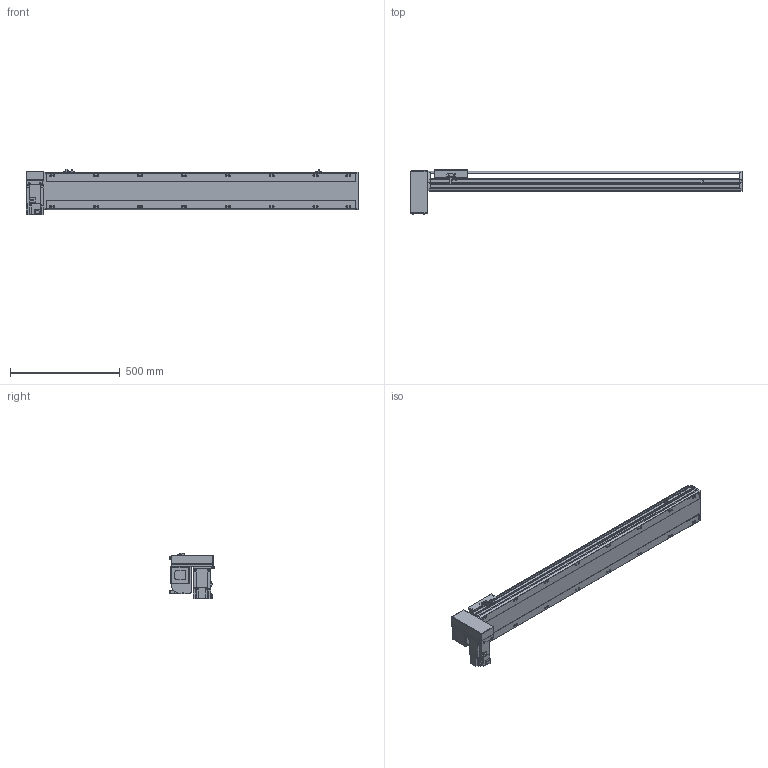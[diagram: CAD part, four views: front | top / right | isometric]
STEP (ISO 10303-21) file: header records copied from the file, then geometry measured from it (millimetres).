
FILE_DESCRIPTION( ( 'STEP AP214' ), '1' );
FILE_NAME( 'x:/temp/worker_5/temp/exporttempdir_3988_31_u76VU/format_0/PBS170-P40-S1150-RD-T75-C1-N(0).stp', '2022-06-08T05:35:45', ( 'License CC BY-ND 4.0' ), ( 'CADENAS' ), ' ', 'PARTsolutions', ' ' );
FILE_SCHEMA( ( 'AUTOMOTIVE_DESIGN { 1 0 10303 214 1 1 1 1 }' ) );
Length unit declared in the file: millimetre
Products named in the file (7): PBS170-P40-S1150-RD-T75-C1-N(0); _PBS170-S1150()_body; _PBS170T-RD_motors; _T75-p1; _PBS170_sliser; _PBS170_plant; _PBS170_sensor
Assembly tree (8 placements, depth 2):
  PBS170-P40-S1150-RD-T75-C1-N(0)
    _PBS170-S1150()_body
    _PBS170T-RD_motors
    _T75-p1
    _PBS170_sliser
    _PBS170_plant
    _PBS170_sensor  x3
Bounding box: 1513 x 201 x 205.3 mm (x, y, z)
Volume: 12059799.7 mm3; surface area: 1568894.4 mm2
Topology: 8 solids, 8 shells, 1082 faces, 2875 edges, 1874 vertices
Faces by surface type: plane 687, cylinder 339, cone 46, sphere 8, torus 2
Full cylindrical faces by diameter (mm): 3.242 x4, 4 x2, 4.4 x4, 4.5 x6, 4.917 x4, 6 x9, 6.647 x24, 7 x2, 7.5 x4, 8 x8, 8.5 x16, 10 x4, 10.5 x16, 11 x2, 30 x2, 40 x1, 70 x1
Entity records: 39740 total; most frequent: CARTESIAN_POINT 6221, DIRECTION 5300, ORIENTED_EDGE 5028, EDGE_CURVE 2514, AXIS2_PLACEMENT_3D 1837, VERTEX_POINT 1730, LINE 1626, VECTOR 1626
